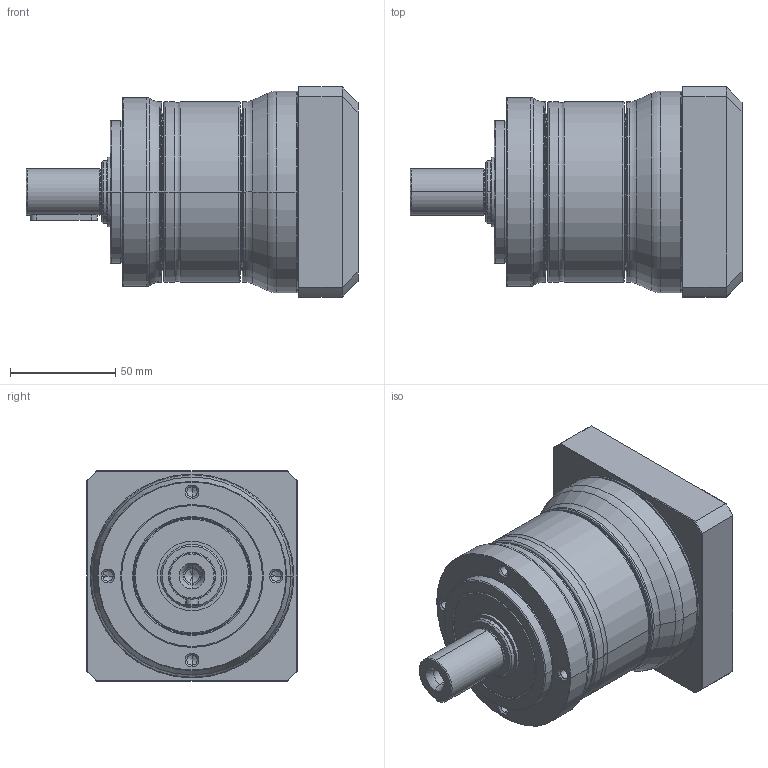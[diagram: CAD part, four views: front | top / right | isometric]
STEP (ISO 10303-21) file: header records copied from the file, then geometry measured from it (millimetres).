
FILE_DESCRIPTION((''),'2;1');
FILE_NAME('PE2-090_1ST_24-P0411500101_ASM','2017-05-26T',('d01943'),(''),'PRO/ENGINEER BY PARAMETRIC TECHNOLOGY CORPORATION, 2008410','PRO/ENGINEER BY PARAMETRIC TECHNOLOGY CORPORATION, 2008410','');
FILE_SCHEMA(('CONFIG_CONTROL_DESIGN'));
Length unit declared in the file: millimetre
Products named in the file (9): P1323310001; P0250300001; P1324300201; P0350301001; P0941302001; P0503500008; P0411500101; P1702500001; PE2-090_1ST_24-P0411500101_ASM
Assembly tree (8 placements, depth 2):
  PE2-090_1ST_24-P0411500101_ASM
    P1323310001
    P0250300001
    P1324300201
    P0350301001
    P0941302001
    P0503500008
    P0411500101
    P1702500001
Bounding box: 158 x 100 x 100 mm (x, y, z)
Volume: 590693.8 mm3; surface area: 142422.7 mm2
Topology: 8 solids, 8 shells, 465 faces, 1019 edges, 584 vertices
Faces by surface type: cone 138, cylinder 136, torus 98, plane 77, bspline 16
Entity records: 17319 total; most frequent: CARTESIAN_POINT 6891, DIRECTION 2377, ORIENTED_EDGE 1974, AXIS2_PLACEMENT_3D 1021, EDGE_CURVE 987, VERTEX_POINT 584, CIRCLE 555, EDGE_LOOP 527
